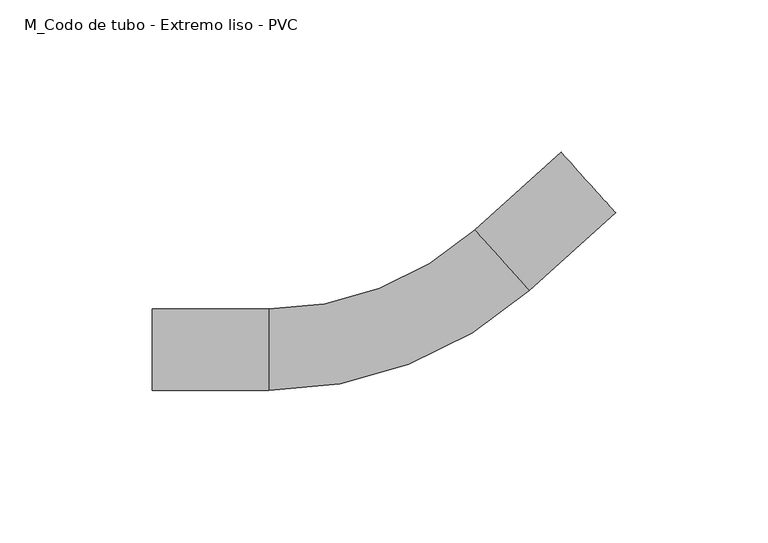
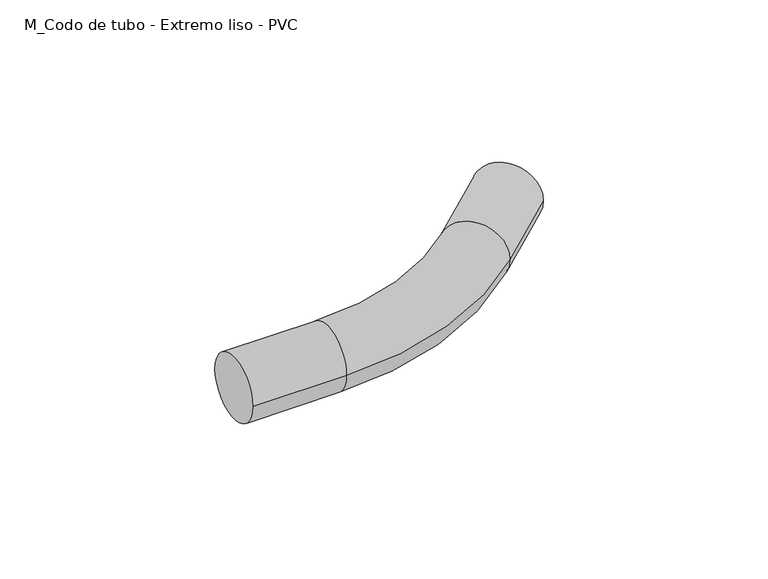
"""IFC4 building model written with IfcOpenShell, lengths in millimetres: cable carrier fitting geometry, M_Codo de tubo - Extremo liso - PVC : CODO ILUMINACION."""

from ifc_helpers import new_model, si_unit, point, frame, origin, place, context, project, spatial, circle_curve, ellipse_curve, trimmed, source, transform, mapped, element, save
from ifc_brep_helpers import plane_surface, cylinder_surface, revolved_surface, advanced_brep


def m_codo_de_tubo_extremo_liso_pvc_d0634796(model_context):
    return source(origin(), model_context, "Body", "AdvancedBrep", [
        advanced_brep(
        [(-81.9756592, -13.335, 0.0), (-81.9756592, 13.335, 0.0), (-43.8756592, -13.335, 0.0), (-43.8756592, 13.335, 0.0), (23.6831125, 39.2683827, 0.0), (41.5288257, 19.4487102, 0.0), (69.8426436, 44.9425863, 0.0), (51.9969303, 64.7622588, 0.0)],
        [
            (0, 1, circle_curve(frame((-81.9756592, 0.0, 0.0), z_axis=(-1.0, 0.0, 0.0), x_axis=(0.0, 1.0, 0.0)), 13.335)),
            (1, 0, circle_curve(frame((-81.9756592, 0.0, 0.0), z_axis=(-1.0, 0.0, 0.0), x_axis=(0.0, 1.0, 0.0)), 13.335)),
            (0, 2),
            (2, 3, circle_curve(frame((-43.8756592, 0.0, 0.0), z_axis=(-1.0, 0.0, 0.0), x_axis=(0.0, 1.0, 0.0)), 13.335)),
            (3, 1),
            (3, 2, circle_curve(frame((-43.8756592, 0.0, 0.0), z_axis=(-1.0, 0.0, 0.0), x_axis=(0.0, 1.0, 0.0)), 13.335)),
            (4, 3, circle_curve(frame((-43.8756592, 114.3, 0.0), z_axis=(0.0, 0.0, -1.0), x_axis=(0.0, -1.0, 0.0)), 100.965)),
            (2, 5, circle_curve(frame((-43.8756592, 114.3, 0.0), z_axis=(0.0, 0.0, 1.0), x_axis=(0.0, -1.0, 0.0)), 127.635)),
            (5, 4, circle_curve(frame((32.6059691, 29.3585464, 0.0), z_axis=(-0.7431448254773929, -0.6691306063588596, 0.0), x_axis=(-0.6691306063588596, 0.7431448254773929, 0.0)), 13.335)),
            (4, 5, circle_curve(frame((32.6059691, 29.3585464, 0.0), z_axis=(-0.7431448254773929, -0.6691306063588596, 0.0), x_axis=(-0.6691306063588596, 0.7431448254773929, 0.0)), 13.335)),
            (6, 7, circle_curve(frame((60.919787, 54.8524226, 0.0), z_axis=(0.743144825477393, 0.6691306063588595, 0.0), x_axis=(-0.6691306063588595, 0.743144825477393, 0.0)), 13.335)),
            (7, 6, circle_curve(frame((60.919787, 54.8524226, 0.0), z_axis=(0.743144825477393, 0.6691306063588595, 0.0), x_axis=(-0.6691306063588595, 0.743144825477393, 0.0)), 13.335)),
            (5, 6),
            (7, 4),
        ],
        [
            plane_surface(frame((-81.9756592, 0.0, 0.0), z_axis=(-1.0, 0.0, 0.0), x_axis=(0.0, 0.0, 1.0))),
            cylinder_surface(frame((-81.9756592, 0.0, 0.0), z_axis=(-1.0, 0.0, 0.0), x_axis=(0.0, 1.0, 0.0)), 13.335),
            revolved_surface(trimmed(ellipse_curve(frame((-43.8756592, 0.0, 0.0), z_axis=(-1.0, 0.0, 0.0), x_axis=(0.0, 1.0, 0.0)), 13.335, 13.335), [point((-43.8756592, -13.335, 0.0))], [point((-43.8756592, 13.335, 0.0))], True, "CARTESIAN"), (-43.8756592, 114.3, 0.0), (0.0, 0.0, 1.0)),
            revolved_surface(trimmed(ellipse_curve(frame((-43.8756592, 0.0, 0.0), z_axis=(-1.0, 0.0, 0.0), x_axis=(0.0, 1.0, 0.0)), 13.335, 13.335), [point((-43.8756592, 13.335, 0.0))], [point((-43.8756592, -13.335, 0.0))], True, "CARTESIAN"), (-43.8756592, 114.3, 0.0), (0.0, 0.0, 1.0)),
            plane_surface(frame((60.919787, 54.8524226, 0.0), z_axis=(0.743144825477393, 0.6691306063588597, 0.0), x_axis=(0.0, 0.0, 1.0))),
            cylinder_surface(frame((32.6059691, 29.3585464, 0.0), z_axis=(-0.743144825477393, -0.6691306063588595, 0.0), x_axis=(-0.6691306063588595, 0.743144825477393, 0.0)), 13.335),
        ],
        [
            (0, [[1, 2]]),
            (1, [[-1, 3, 4, 5]]),
            (1, [[-2, -5, 6, -3]]),
            (2, [[7, -4, 8, 9]]),
            (3, [[-8, -6, -7, 10]]),
            (4, [[11, 12]]),
            (5, [[-9, 13, -12, 14]]),
            (5, [[-10, -14, -11, -13]]),
        ],
    ),
    ])


if __name__ == "__main__":
    model = new_model("IFC4")
    model_context = context("Model", 3, world=origin())
    ifc_project = project(units=[si_unit("LENGTHUNIT", "METRE", prefix="MILLI")], contexts=[model_context])
    site = spatial("IfcSite", under=ifc_project)
    building = spatial("IfcBuilding", under=site)
    placement = place(None, origin())
    m_codo_de_tubo_extremo_liso_pvc_shape = m_codo_de_tubo_extremo_liso_pvc_d0634796(model_context)
    element("IfcCableCarrierFitting", 1, ObjectType="M_Codo de tubo - Extremo liso - PVC : CODO ILUMINACION", at=placement, inside=building, context=model_context, shape_type="MappedRepresentation", body=[
        mapped(m_codo_de_tubo_extremo_liso_pvc_shape, transform((0.0, 0.0, 0.0), x_axis=(1.0, 0.0, 0.0), y_axis=(0.0, 1.0, 0.0), z_axis=(0.0, 0.0, 1.0))),
    ])
    save(model, "model.ifc")
